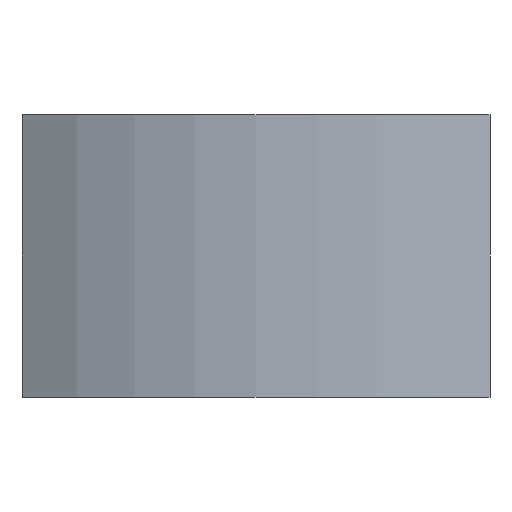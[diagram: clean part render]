
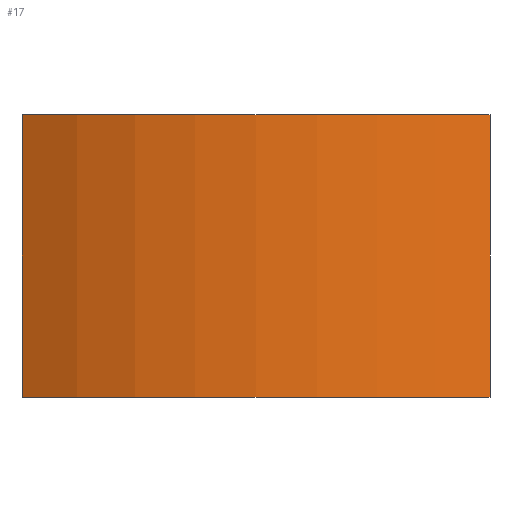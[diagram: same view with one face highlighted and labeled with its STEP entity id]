
A CAD part, front view. The second image highlights one B-rep face of the part: STEP entity #17.
In plain terms, the highlighted cylindrical face has radius 116 mm (diameter 232 mm), a partial arc.
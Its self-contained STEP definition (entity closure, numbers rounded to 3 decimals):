
#17 = ADVANCED_FACE('',(#18),#32,.T.);
#18 = FACE_BOUND('',#19,.F.);
#19 = EDGE_LOOP('',(#20,#55,#84,#112));
#20 = ORIENTED_EDGE('',*,*,#21,.F.);
#21 = EDGE_CURVE('',#22,#24,#26,.T.);
#22 = VERTEX_POINT('',#23);
#23 = CARTESIAN_POINT('',(-58.,-100.459,79.));
#24 = VERTEX_POINT('',#25);
#25 = CARTESIAN_POINT('',(-58.,-100.459,9.));
#26 = SURFACE_CURVE('',#27,(#31,#43),.PCURVE_S1.);
#27 = LINE('',#28,#29);
#28 = CARTESIAN_POINT('',(-58.,-100.459,79.));
#29 = VECTOR('',#30,1.);
#30 = DIRECTION('',(0.,0.,-1.));
#31 = PCURVE('',#32,#37);
#32 = CYLINDRICAL_SURFACE('',#33,116.);
#33 = AXIS2_PLACEMENT_3D('',#34,#35,#36);
#34 = CARTESIAN_POINT('',(0.,0.,76.));
#35 = DIRECTION('',(-0.,-0.,-1.));
#36 = DIRECTION('',(-0.5,-0.866,0.));
#37 = DEFINITIONAL_REPRESENTATION('',(#38),#42);
#38 = LINE('',#39,#40);
#39 = CARTESIAN_POINT('',(-0.,-3.));
#40 = VECTOR('',#41,1.);
#41 = DIRECTION('',(0.,1.));
#42 = ( GEOMETRIC_REPRESENTATION_CONTEXT(2) 
PARAMETRIC_REPRESENTATION_CONTEXT() REPRESENTATION_CONTEXT('2D SPACE',''
  ) );
#43 = PCURVE('',#44,#49);
#44 = PLANE('',#45);
#45 = AXIS2_PLACEMENT_3D('',#46,#47,#48);
#46 = CARTESIAN_POINT('',(-16.,-27.713,76.));
#47 = DIRECTION('',(0.866,-0.5,0.));
#48 = DIRECTION('',(-0.5,-0.866,0.));
#49 = DEFINITIONAL_REPRESENTATION('',(#50),#54);
#50 = LINE('',#51,#52);
#51 = CARTESIAN_POINT('',(84.,-3.));
#52 = VECTOR('',#53,1.);
#53 = DIRECTION('',(-0.,1.));
#54 = ( GEOMETRIC_REPRESENTATION_CONTEXT(2) 
PARAMETRIC_REPRESENTATION_CONTEXT() REPRESENTATION_CONTEXT('2D SPACE',''
  ) );
#55 = ORIENTED_EDGE('',*,*,#56,.T.);
#56 = EDGE_CURVE('',#22,#57,#59,.T.);
#57 = VERTEX_POINT('',#58);
#58 = CARTESIAN_POINT('',(58.,-100.459,79.));
#59 = SURFACE_CURVE('',#60,(#65,#72),.PCURVE_S1.);
#60 = CIRCLE('',#61,116.);
#61 = AXIS2_PLACEMENT_3D('',#62,#63,#64);
#62 = CARTESIAN_POINT('',(0.,0.,79.));
#63 = DIRECTION('',(0.,0.,1.));
#64 = DIRECTION('',(-0.5,-0.866,0.));
#65 = PCURVE('',#32,#66);
#66 = DEFINITIONAL_REPRESENTATION('',(#67),#71);
#67 = LINE('',#68,#69);
#68 = CARTESIAN_POINT('',(-0.,-3.));
#69 = VECTOR('',#70,1.);
#70 = DIRECTION('',(-1.,0.));
#71 = ( GEOMETRIC_REPRESENTATION_CONTEXT(2) 
PARAMETRIC_REPRESENTATION_CONTEXT() REPRESENTATION_CONTEXT('2D SPACE',''
  ) );
#72 = PCURVE('',#73,#78);
#73 = PLANE('',#74);
#74 = AXIS2_PLACEMENT_3D('',#75,#76,#77);
#75 = CARTESIAN_POINT('',(0.,-77.674,79.));
#76 = DIRECTION('',(0.,0.,1.));
#77 = DIRECTION('',(1.,0.,-0.));
#78 = DEFINITIONAL_REPRESENTATION('',(#79),#83);
#79 = CIRCLE('',#80,116.);
#80 = AXIS2_PLACEMENT_2D('',#81,#82);
#81 = CARTESIAN_POINT('',(0.,77.674));
#82 = DIRECTION('',(-0.5,-0.866));
#83 = ( GEOMETRIC_REPRESENTATION_CONTEXT(2) 
PARAMETRIC_REPRESENTATION_CONTEXT() REPRESENTATION_CONTEXT('2D SPACE',''
  ) );
#84 = ORIENTED_EDGE('',*,*,#85,.F.);
#85 = EDGE_CURVE('',#86,#57,#88,.T.);
#86 = VERTEX_POINT('',#87);
#87 = CARTESIAN_POINT('',(58.,-100.459,9.));
#88 = SURFACE_CURVE('',#89,(#93,#100),.PCURVE_S1.);
#89 = LINE('',#90,#91);
#90 = CARTESIAN_POINT('',(58.,-100.459,9.));
#91 = VECTOR('',#92,1.);
#92 = DIRECTION('',(0.,0.,1.));
#93 = PCURVE('',#32,#94);
#94 = DEFINITIONAL_REPRESENTATION('',(#95),#99);
#95 = LINE('',#96,#97);
#96 = CARTESIAN_POINT('',(-1.047,67.));
#97 = VECTOR('',#98,1.);
#98 = DIRECTION('',(-0.,-1.));
#99 = ( GEOMETRIC_REPRESENTATION_CONTEXT(2) 
PARAMETRIC_REPRESENTATION_CONTEXT() REPRESENTATION_CONTEXT('2D SPACE',''
  ) );
#100 = PCURVE('',#101,#106);
#101 = PLANE('',#102);
#102 = AXIS2_PLACEMENT_3D('',#103,#104,#105);
#103 = CARTESIAN_POINT('',(58.,-100.459,76.));
#104 = DIRECTION('',(-0.866,-0.5,0.));
#105 = DIRECTION('',(-0.5,0.866,0.));
#106 = DEFINITIONAL_REPRESENTATION('',(#107),#111);
#107 = LINE('',#108,#109);
#108 = CARTESIAN_POINT('',(0.,67.));
#109 = VECTOR('',#110,1.);
#110 = DIRECTION('',(0.,-1.));
#111 = ( GEOMETRIC_REPRESENTATION_CONTEXT(2) 
PARAMETRIC_REPRESENTATION_CONTEXT() REPRESENTATION_CONTEXT('2D SPACE',''
  ) );
#112 = ORIENTED_EDGE('',*,*,#113,.F.);
#113 = EDGE_CURVE('',#24,#86,#114,.T.);
#114 = SURFACE_CURVE('',#115,(#120,#127),.PCURVE_S1.);
#115 = CIRCLE('',#116,116.);
#116 = AXIS2_PLACEMENT_3D('',#117,#118,#119);
#117 = CARTESIAN_POINT('',(0.,0.,9.));
#118 = DIRECTION('',(0.,0.,1.));
#119 = DIRECTION('',(-0.5,-0.866,0.));
#120 = PCURVE('',#32,#121);
#121 = DEFINITIONAL_REPRESENTATION('',(#122),#126);
#122 = LINE('',#123,#124);
#123 = CARTESIAN_POINT('',(-0.,67.));
#124 = VECTOR('',#125,1.);
#125 = DIRECTION('',(-1.,0.));
#126 = ( GEOMETRIC_REPRESENTATION_CONTEXT(2) 
PARAMETRIC_REPRESENTATION_CONTEXT() REPRESENTATION_CONTEXT('2D SPACE',''
  ) );
#127 = PCURVE('',#128,#133);
#128 = PLANE('',#129);
#129 = AXIS2_PLACEMENT_3D('',#130,#131,#132);
#130 = CARTESIAN_POINT('',(0.,-108.023,9.));
#131 = DIRECTION('',(0.,0.,1.));
#132 = DIRECTION('',(1.,0.,-0.));
#133 = DEFINITIONAL_REPRESENTATION('',(#134),#138);
#134 = CIRCLE('',#135,116.);
#135 = AXIS2_PLACEMENT_2D('',#136,#137);
#136 = CARTESIAN_POINT('',(0.,108.023));
#137 = DIRECTION('',(-0.5,-0.866));
#138 = ( GEOMETRIC_REPRESENTATION_CONTEXT(2) 
PARAMETRIC_REPRESENTATION_CONTEXT() REPRESENTATION_CONTEXT('2D SPACE',''
  ) );
